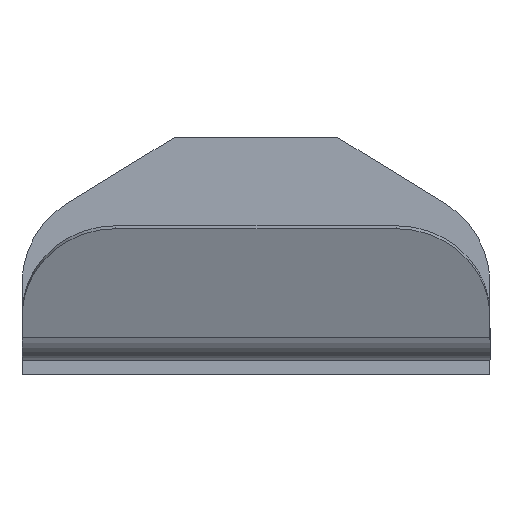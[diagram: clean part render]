
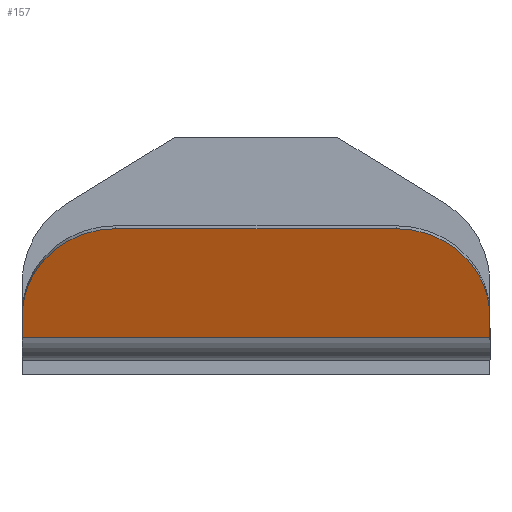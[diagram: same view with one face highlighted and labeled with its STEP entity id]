
A CAD part, front view. The second image highlights one B-rep face of the part: STEP entity #157.
In plain terms, the highlighted planar face has unit normal (0, -0.938, -0.348).
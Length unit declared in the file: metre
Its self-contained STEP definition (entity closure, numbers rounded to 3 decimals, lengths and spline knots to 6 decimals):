
#157 = ADVANCED_FACE( '', ( #340 ), #341, .T. );
#340 = FACE_OUTER_BOUND( '', #554, .T. );
#341 = PLANE( '', #555 );
#554 = EDGE_LOOP( '', ( #933, #934, #935, #936, #937, #938 ) );
#555 = AXIS2_PLACEMENT_3D( '', #939, #940, #941 );
#933 = ORIENTED_EDGE( '', *, *, #1375, .F. );
#934 = ORIENTED_EDGE( '', *, *, #1376, .T. );
#935 = ORIENTED_EDGE( '', *, *, #1377, .F. );
#936 = ORIENTED_EDGE( '', *, *, #1317, .T. );
#937 = ORIENTED_EDGE( '', *, *, #1297, .F. );
#938 = ORIENTED_EDGE( '', *, *, #1264, .F. );
#939 = CARTESIAN_POINT( '', ( -0.08228, 0.988416, 0.203457 ) );
#940 = DIRECTION( '', ( 0., -0.937, -0.348 ) );
#941 = DIRECTION( '', ( 0., 0.348, -0.937 ) );
#1264 = EDGE_CURVE( '', #1511, #1513, #1514, .T. );
#1297 = EDGE_CURVE( '', #1513, #1568, #1569, .T. );
#1317 = EDGE_CURVE( '', #1599, #1568, #1600, .T. );
#1375 = EDGE_CURVE( '', #1687, #1511, #1688, .T. );
#1376 = EDGE_CURVE( '', #1687, #1689, #1690, .T. );
#1377 = EDGE_CURVE( '', #1599, #1689, #1691, .T. );
#1511 = VERTEX_POINT( '', #1857 );
#1513 = VERTEX_POINT( '', #1860 );
#1514 = LINE( '', #1861, #1862 );
#1568 = VERTEX_POINT( '', #1931 );
#1569 = CIRCLE( '', #1932, 0.0254 );
#1599 = VERTEX_POINT( '', #1974 );
#1600 = LINE( '', #1975, #1976 );
#1687 = VERTEX_POINT( '', #2090 );
#1688 = CIRCLE( '', #2091, 0.0254 );
#1689 = VERTEX_POINT( '', #2092 );
#1690 = LINE( '', #2093, #2094 );
#1691 = LINE( '', #2095, #2096 );
#1857 = CARTESIAN_POINT( '', ( -0.05688, 0.975154, 0.239175 ) );
#1860 = CARTESIAN_POINT( '', ( 0.01932, 0.975154, 0.239175 ) );
#1861 = CARTESIAN_POINT( '', ( -0.05688, 0.975154, 0.239175 ) );
#1862 = VECTOR( '', #2264, 1. );
#1931 = CARTESIAN_POINT( '', ( 0.04472, 0.983995, 0.215363 ) );
#1932 = AXIS2_PLACEMENT_3D( '', #2316, #2317, #2318 );
#1974 = CARTESIAN_POINT( '', ( 0.04472, 0.986141, 0.209584 ) );
#1975 = CARTESIAN_POINT( '', ( 0.04472, 0.986141, 0.209584 ) );
#1976 = VECTOR( '', #2337, 1. );
#2090 = CARTESIAN_POINT( '', ( -0.08228, 0.983995, 0.215363 ) );
#2091 = AXIS2_PLACEMENT_3D( '', #2413, #2414, #2415 );
#2092 = CARTESIAN_POINT( '', ( -0.08228, 0.986141, 0.209584 ) );
#2093 = CARTESIAN_POINT( '', ( -0.08228, 0.983995, 0.215363 ) );
#2094 = VECTOR( '', #2416, 1. );
#2095 = CARTESIAN_POINT( '', ( 0.04472, 0.986141, 0.209584 ) );
#2096 = VECTOR( '', #2417, 1. );
#2264 = DIRECTION( '', ( 1., 0., 0. ) );
#2316 = CARTESIAN_POINT( '', ( 0.01932, 0.983995, 0.215363 ) );
#2317 = DIRECTION( '', ( 0., 0.937, 0.348 ) );
#2318 = DIRECTION( '', ( 0.707, -0.246, 0.663 ) );
#2337 = DIRECTION( '', ( 0., -0.348, 0.937 ) );
#2413 = CARTESIAN_POINT( '', ( -0.05688, 0.983995, 0.215363 ) );
#2414 = DIRECTION( '', ( 0., 0.937, 0.348 ) );
#2415 = DIRECTION( '', ( -0.707, -0.246, 0.663 ) );
#2416 = DIRECTION( '', ( 0., 0.348, -0.937 ) );
#2417 = DIRECTION( '', ( -1., 0., 0. ) );
